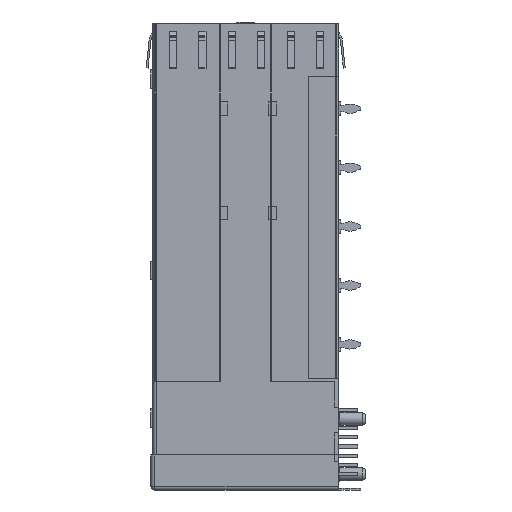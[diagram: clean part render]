
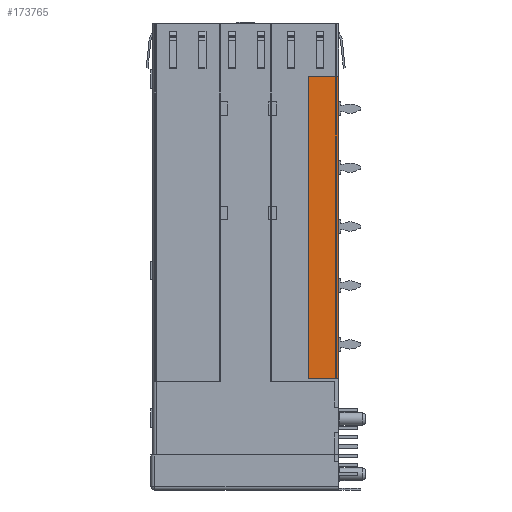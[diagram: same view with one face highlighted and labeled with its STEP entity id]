
A CAD part, left-side view. The second image highlights one B-rep face of the part: STEP entity #173765.
In plain terms, the highlighted planar face has unit normal (-1, 0, 0).
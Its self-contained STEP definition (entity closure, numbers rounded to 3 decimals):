
#1991 = DIRECTION ( 'NONE',  ( 0., 0., 1. ) ) ;
#11200 = EDGE_LOOP ( 'NONE', ( #42625, #82595, #179437, #105185 ) ) ;
#15960 = CARTESIAN_POINT ( 'NONE',  ( -85.875, 4.1, -48.1 ) ) ;
#17237 = PLANE ( 'NONE',  #65680 ) ;
#18714 = CARTESIAN_POINT ( 'NONE',  ( -85.875, 0., -7.1 ) ) ;
#22628 = VERTEX_POINT ( 'NONE', #34200 ) ;
#30264 = CARTESIAN_POINT ( 'NONE',  ( -85.875, 0., -48.1 ) ) ;
#33959 = VERTEX_POINT ( 'NONE', #149825 ) ;
#34200 = CARTESIAN_POINT ( 'NONE',  ( -85.875, 0., -7.1 ) ) ;
#36382 = DIRECTION ( 'NONE',  ( 0., -1., 0. ) ) ;
#37260 = VECTOR ( 'NONE', #176807, 1000. ) ;
#42625 = ORIENTED_EDGE ( 'NONE', *, *, #101220, .F. ) ;
#59962 = VECTOR ( 'NONE', #156673, 1000. ) ;
#65680 = AXIS2_PLACEMENT_3D ( 'NONE', #80766, #96643, #1991 ) ;
#79268 = LINE ( 'NONE', #18714, #37260 ) ;
#80236 = CARTESIAN_POINT ( 'NONE',  ( -85.875, 4.1, -7.1 ) ) ;
#80766 = CARTESIAN_POINT ( 'NONE',  ( -85.875, 0., 0. ) ) ;
#82595 = ORIENTED_EDGE ( 'NONE', *, *, #126060, .F. ) ;
#96643 = DIRECTION ( 'NONE',  ( 1., 0., 0. ) ) ;
#99232 = CARTESIAN_POINT ( 'NONE',  ( -85.875, 0., -7.1 ) ) ;
#100539 = EDGE_CURVE ( 'NONE', #22628, #33959, #79268, .T. ) ;
#100647 = VECTOR ( 'NONE', #124820, 1000. ) ;
#101220 = EDGE_CURVE ( 'NONE', #164369, #22628, #150617, .T. ) ;
#105185 = ORIENTED_EDGE ( 'NONE', *, *, #100539, .F. ) ;
#108564 = VECTOR ( 'NONE', #36382, 1000. ) ;
#108955 = CARTESIAN_POINT ( 'NONE',  ( -85.875, 4.1, -7.1 ) ) ;
#124820 = DIRECTION ( 'NONE',  ( 0., 1., 0. ) ) ;
#126060 = EDGE_CURVE ( 'NONE', #166801, #164369, #143849, .T. ) ;
#143849 = LINE ( 'NONE', #108955, #59962 ) ;
#145159 = EDGE_CURVE ( 'NONE', #33959, #166801, #179644, .T. ) ;
#149825 = CARTESIAN_POINT ( 'NONE',  ( -85.875, 0., -48.1 ) ) ;
#150617 = LINE ( 'NONE', #99232, #108564 ) ;
#156673 = DIRECTION ( 'NONE',  ( 0., 0., 1. ) ) ;
#164369 = VERTEX_POINT ( 'NONE', #80236 ) ;
#166801 = VERTEX_POINT ( 'NONE', #15960 ) ;
#173765 = ADVANCED_FACE ( 'NONE', ( #194017 ), #17237, .F. ) ;
#176807 = DIRECTION ( 'NONE',  ( 0., 0., -1. ) ) ;
#179437 = ORIENTED_EDGE ( 'NONE', *, *, #145159, .F. ) ;
#179644 = LINE ( 'NONE', #30264, #100647 ) ;
#194017 = FACE_OUTER_BOUND ( 'NONE', #11200, .T. ) ;
